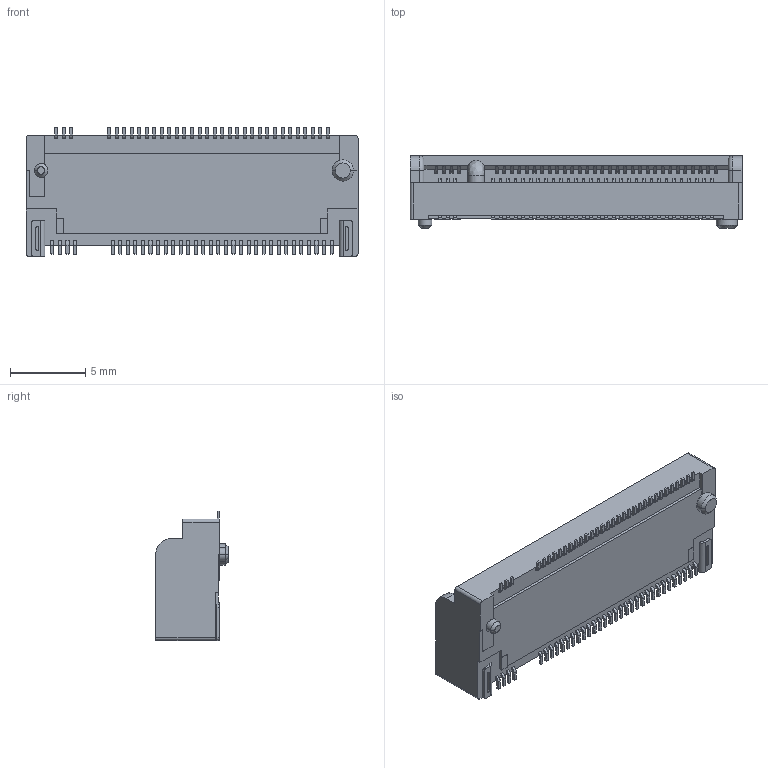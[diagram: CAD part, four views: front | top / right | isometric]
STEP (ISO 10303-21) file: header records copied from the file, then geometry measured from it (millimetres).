
FILE_DESCRIPTION((''),'2;1');
FILE_NAME('MDT42A0X001_C3D','2015-05-06T',('yunx.liu'),(''),'PRO/ENGINEER BY PARAMETRIC TECHNOLOGY CORPORATION, 2012230','PRO/ENGINEER BY PARAMETRIC TECHNOLOGY CORPORATION, 2012230','');
FILE_SCHEMA(('CONFIG_CONTROL_DESIGN'));
Length unit declared in the file: millimetre
Products named in the file (1): MDT42A0X001_C3D
Bounding box: 22 x 4.8 x 8.55 mm (x, y, z)
Volume: 543.8 mm3; surface area: 734.3 mm2
Topology: 1 solids, 1 shells, 1584 faces, 4491 edges, 2991 vertices
Faces by surface type: plane 1206, cylinder 371, cone 4, torus 2, bspline 1
Entity records: 51432 total; most frequent: CARTESIAN_POINT 9455, ORIENTED_EDGE 8982, DIRECTION 8271, EDGE_CURVE 4491, VECTOR 3589, LINE 3589, VERTEX_POINT 2991, AXIS2_PLACEMENT_3D 2341
